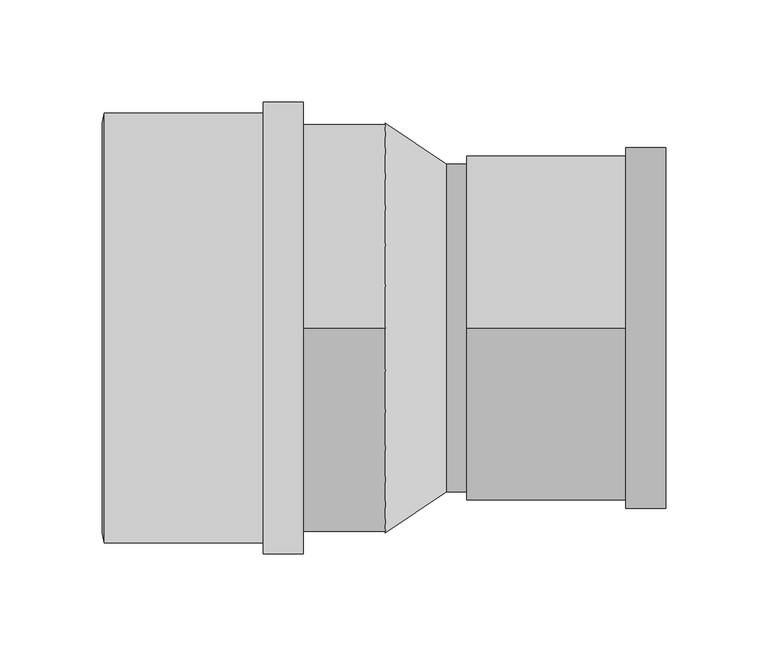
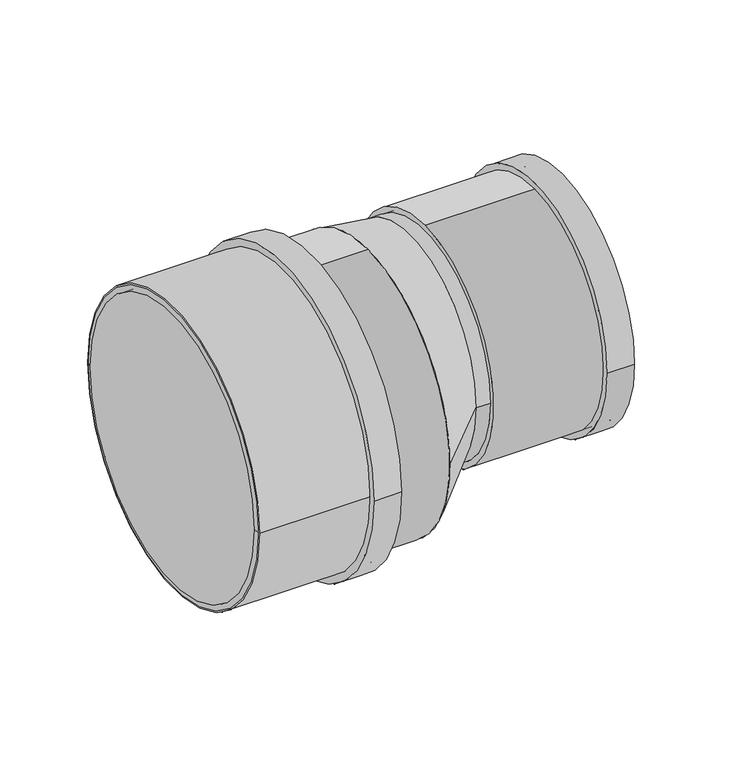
"""IFC4 building model written with IfcOpenShell, lengths in millimetres: pipe fitting geometry, Superdrain SKR-Reducer : Superdrain SKR-Reducer."""

from ifc_helpers import new_model, si_unit, point, frame, frame_2d, origin, origin_2d, place, context, project, spatial, polyline, circle_curve, trimmed, segment, composite_curve, outline, extrude, source, transform, mapped, element, save
from ifc_brep_helpers import plane_surface, revolved_surface, spline_surface, advanced_brep


def pipe_fitting_df5d9b67(model_context):
    return source(origin(), model_context, "Body", "SolidModel", [
        extrude(outline(composite_curve([segment(trimmed(circle_curve(frame_2d((0.0, 0.1450234)), 105.0), [point((105.0, 0.1450234))], [point((-105.0, 0.1450234))], False, "CARTESIAN"), True, "CONTINUOUS"), segment(trimmed(circle_curve(frame_2d((0.0, 0.1450234)), 105.0), [point((-105.0, 0.1450234))], [point((105.0, 0.1450234))], False, "CARTESIAN"), True, "CONTINUOUS")], self_intersect=False), holes=[composite_curve([segment(trimmed(circle_curve(frame_2d((0.0, 0.1450234)), 100.0), [point((100.0, 0.1450234))], [point((-100.0, 0.1450234))], True, "CARTESIAN"), True, "CONTINUOUS"), segment(trimmed(circle_curve(frame_2d((0.0, 0.1450234)), 100.0), [point((-100.0, 0.1450234))], [point((100.0, 0.1450234))], True, "CARTESIAN"), True, "CONTINUOUS")], self_intersect=False)]), frame((-137.0, 0.0, 0.0), z_axis=(1.0, 0.0, 0.0), x_axis=(0.0, 1.0, 0.0)), (0.0, 0.0, 1.0), 97.0),
        extrude(outline(composite_curve([segment(trimmed(circle_curve(frame_2d((0.0, 0.1450234)), 110.25), [point((110.25, 0.1450234))], [point((-110.25, 0.1450234))], False, "CARTESIAN"), True, "CONTINUOUS"), segment(trimmed(circle_curve(frame_2d((0.0, 0.1450234)), 110.25), [point((-110.25, 0.1450234))], [point((110.25, 0.1450234))], False, "CARTESIAN"), True, "CONTINUOUS")], self_intersect=False), holes=[composite_curve([segment(trimmed(circle_curve(frame_2d((0.0, 0.1450234)), 100.0), [point((100.0, 0.1450234))], [point((-100.0, 0.1450234))], True, "CARTESIAN"), True, "CONTINUOUS"), segment(trimmed(circle_curve(frame_2d((0.0, 0.1450234)), 100.0), [point((-100.0, 0.1450234))], [point((100.0, 0.1450234))], True, "CARTESIAN"), True, "CONTINUOUS")], self_intersect=False)]), frame((-59.4, 0.0, 0.0), z_axis=(1.0, 0.0, 0.0), x_axis=(0.0, 1.0, 0.0)), (0.0, 0.0, 1.0), 19.4),
        advanced_brep(
        [(-138.0, 100.0, 0.1450234), (-138.0, -100.0, 0.1450234), (-137.0, 105.0, 0.1450234), (-137.0, -105.0, 0.1450234)],
        [
            (0, 1, circle_curve(frame((-138.0, 0.0, 0.1450234), z_axis=(-1.0, 0.0, 0.0), x_axis=(0.0, 1.0000000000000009, 0.0)), 100.0)),
            (1, 0, circle_curve(frame((-138.0, 0.0, 0.1450234), z_axis=(-1.0, 0.0, 0.0), x_axis=(0.0, -1.0000000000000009, 0.0)), 100.0)),
            (2, 3, circle_curve(frame((-137.0, 0.0, 0.1450234), z_axis=(1.0, 0.0, 0.0), x_axis=(0.0, -1.0000000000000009, 0.0)), 105.0)),
            (3, 2, circle_curve(frame((-137.0, 0.0, 0.1450234), z_axis=(1.0, 0.0, 0.0), x_axis=(0.0, 1.0000000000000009, 0.0)), 105.0)),
            (3, 1),
            (0, 2),
        ],
        [
            plane_surface(frame((-138.0, 0.0, 0.1450234), z_axis=(-1.0, 0.0, 0.0), x_axis=(0.0, 0.0, -1.0))),
            plane_surface(frame((-137.0, 0.0, 0.1450234), z_axis=(1.0, 0.0, 0.0), x_axis=(0.0, 0.0, -1.0))),
            revolved_surface(polyline([(-138.0, 99.99999999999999, 0.1450234), (-137.0, 105.0, 0.1450234)]), (-158.0, 0.0, 0.1450234), (1.0000000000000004, 0.0, 0.0)),
            revolved_surface(polyline([(-138.0, -99.99999999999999, 0.1450234), (-137.0, -105.0, 0.1450234)]), (-158.0, 0.0, 0.1450234), (1.0000000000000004, 0.0, 0.0)),
        ],
        [
            (0, [[1, 2]]),
            (1, [[3, 4]]),
            (2, [[-4, 5, -1, 6]]),
            (3, [[-3, -6, -2, -5]]),
        ],
    ),
        advanced_brep(
        [(30.0, -80.0, 20.0), (30.0, 80.0, 20.0), (0.0, -100.0, 0.0), (0.0, 100.0, 0.0)],
        [
            (0, 1, circle_curve(frame((30.0, 0.0, 20.0), z_axis=(1.0, 0.0, 0.0), x_axis=(0.0, 1.0, 0.0)), 80.0)),
            (1, 0, circle_curve(frame((30.0, 0.0, 20.0), z_axis=(1.0, 0.0, 0.0), x_axis=(0.0, 1.0, 0.0)), 80.0)),
            (2, 3, circle_curve(frame((0.0, 0.0, 0.0), z_axis=(-1.0, 0.0, 0.0), x_axis=(0.0, 1.0, 0.0)), 100.0)),
            (3, 2, circle_curve(frame((0.0, 0.0, 0.0), z_axis=(-1.0, 0.0, 0.0), x_axis=(0.0, 1.0, 0.0)), 100.0)),
            (3, 1),
            (0, 2),
        ],
        [
            plane_surface(frame((30.0, 0.0, 20.0), z_axis=(1.0, 0.0, 0.0), x_axis=(0.0, 0.0, -1.0))),
            plane_surface(frame((0.0, 0.0, 0.0), z_axis=(-1.0, 0.0, 0.0), x_axis=(0.0, 0.0, -1.0))),
            spline_surface(2, 1, [[(0.0, -100.0, 0.0), (30.0, -80.0, 20.0)], [(0.0, -100.0, -100.0), (30.0, -80.0, -60.0)], [(0.0, 0.0, -100.0), (30.0, 0.0, -60.0)], [(0.0, 100.0, -100.0), (30.0, 80.0, -60.0)], [(0.0, 100.0, 0.0), (30.0, 80.0, 20.0)]], [3, 2, 3], [2, 2], [0.0, 1.0, 2.0], [0.0, 1.0], weights=[[1.0, 1.0], [0.7071067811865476, 0.7071067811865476], [1.0, 1.0], [0.7071067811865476, 0.7071067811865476], [1.0, 1.0]]),
            spline_surface(2, 1, [[(0.0, 100.0, 0.0), (30.0, 80.0, 20.0)], [(0.0, 100.0, 100.0), (30.0, 80.0, 100.0)], [(0.0, 0.0, 100.0), (30.0, 0.0, 100.0)], [(0.0, -100.0, 100.0), (30.0, -80.0, 100.0)], [(0.0, -100.0, 0.0), (30.0, -80.0, 20.0)]], [3, 2, 3], [2, 2], [0.0, 1.0, 2.0], [0.0, 1.0], weights=[[1.0, 1.0], [0.7071067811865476, 0.7071067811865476], [1.0, 1.0], [0.7071067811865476, 0.7071067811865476], [1.0, 1.0]]),
        ],
        [
            (0, [[1, 2]]),
            (1, [[3, 4]]),
            (2, [[-4, 5, -1, 6]]),
            (3, [[-3, -6, -2, -5]]),
        ],
    ),
        extrude(outline(composite_curve([segment(trimmed(circle_curve(frame_2d((0.0, 20.0)), 80.0), [point((-80.0, 20.0))], [point((80.0, 20.0))], False, "CARTESIAN"), True, "CONTINUOUS"), segment(trimmed(circle_curve(frame_2d((0.0, 20.0)), 80.0), [point((80.0, 20.0))], [point((-80.0, 20.0))], False, "CARTESIAN"), True, "CONTINUOUS")], self_intersect=False)), frame((30.0, 0.0, 0.0), z_axis=(1.0, 0.0, 0.0), x_axis=(0.0, 1.0, 0.0)), (0.0, 0.0, 1.0), 10.0),
        extrude(outline(composite_curve([segment(trimmed(circle_curve(frame_2d((0.0, 20.0)), 88.2), [point((-88.2, 20.0))], [point((88.2, 20.0))], False, "CARTESIAN"), True, "CONTINUOUS"), segment(trimmed(circle_curve(frame_2d((0.0, 20.0)), 88.2), [point((88.2, 20.0))], [point((-88.2, 20.0))], False, "CARTESIAN"), True, "CONTINUOUS")], self_intersect=False), holes=[composite_curve([segment(trimmed(circle_curve(frame_2d((0.0, 20.0)), 80.0), [point((80.0, 20.0))], [point((-80.0, 20.0))], True, "CARTESIAN"), True, "CONTINUOUS"), segment(trimmed(circle_curve(frame_2d((0.0, 20.0)), 80.0), [point((-80.0, 20.0))], [point((80.0, 20.0))], True, "CARTESIAN"), True, "CONTINUOUS")], self_intersect=False)]), frame((117.6, 0.0, 0.0), z_axis=(1.0, 0.0, 0.0), x_axis=(0.0, 1.0, 0.0)), (0.0, 0.0, 1.0), 19.4),
        extrude(outline(composite_curve([segment(trimmed(circle_curve(frame_2d((0.0, 20.0)), 84.0), [point((0.0, 104.0))], [point((0.0, -64.0))], False, "CARTESIAN"), True, "CONTINUOUS"), segment(trimmed(circle_curve(frame_2d((0.0, 20.0)), 84.0), [point((0.0, -64.0))], [point((0.0, 104.0))], False, "CARTESIAN"), True, "CONTINUOUS")], self_intersect=False), holes=[composite_curve([segment(trimmed(circle_curve(frame_2d((0.0, 20.0)), 80.0), [point((80.0, 20.0))], [point((-80.0, 20.0))], True, "CARTESIAN"), True, "CONTINUOUS"), segment(trimmed(circle_curve(frame_2d((0.0, 20.0)), 80.0), [point((-80.0, 20.0))], [point((80.0, 20.0))], True, "CARTESIAN"), True, "CONTINUOUS")], self_intersect=False)]), frame((40.0, 0.0, 0.0), z_axis=(1.0, 0.0, 0.0), x_axis=(0.0, 1.0, 0.0)), (0.0, 0.0, 1.0), 97.0),
        extrude(outline(composite_curve([segment(trimmed(circle_curve(origin_2d(), 100.0), [point((0.0, 100.0))], [point((0.0, -100.0))], False, "CARTESIAN"), True, "CONTINUOUS"), segment(trimmed(circle_curve(origin_2d(), 100.0), [point((0.0, -100.0))], [point((0.0, 100.0))], False, "CARTESIAN"), True, "CONTINUOUS")], self_intersect=False)), frame((-137.0, 0.0, 0.0), z_axis=(1.0, 0.0, 0.0), x_axis=(0.0, 1.0, 0.0)), (0.0, 0.0, 1.0), 137.0),
    ])


if __name__ == "__main__":
    model = new_model("IFC4")
    model_context = context("Model", 3, world=origin())
    ifc_project = project(units=[si_unit("LENGTHUNIT", "METRE", prefix="MILLI")], contexts=[model_context])
    site = spatial("IfcSite", under=ifc_project)
    building = spatial("IfcBuilding", under=site)
    placement = place(None, origin())
    pipe_fitting_shape = pipe_fitting_df5d9b67(model_context)
    element("IfcPipeFitting", 1, ObjectType="Superdrain SKR-Reducer : Superdrain SKR-Reducer", at=placement, inside=building, context=model_context, shape_type="MappedRepresentation", body=[
        mapped(pipe_fitting_shape, transform((0.0, 0.0, 0.0), x_axis=(1.0, 0.0, 0.0), y_axis=(0.0, 1.0, 0.0), z_axis=(0.0, 0.0, 1.0))),
    ])
    save(model, "model.ifc")
